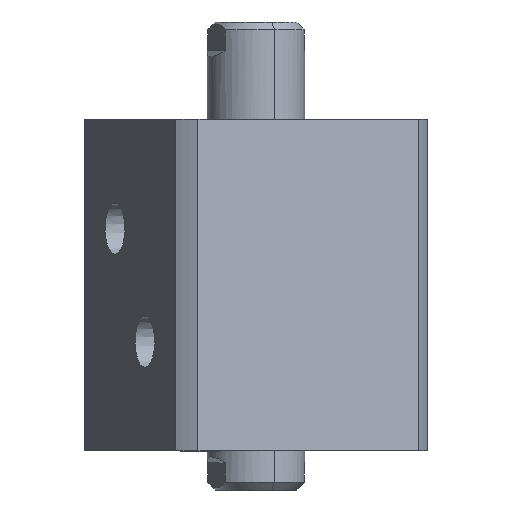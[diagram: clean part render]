
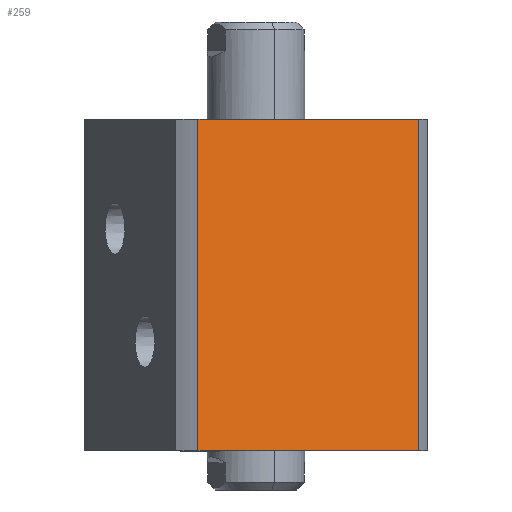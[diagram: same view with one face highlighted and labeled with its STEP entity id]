
A CAD part, left-side view. The second image highlights one B-rep face of the part: STEP entity #259.
In plain terms, the highlighted planar face has unit normal (-0.924, -0.383, 0) as drawn and (1, 0, 0) by its records, which use the part's own axes.
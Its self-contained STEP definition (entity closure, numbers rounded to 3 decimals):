
#68 = DIRECTION ( 'NONE',  ( -1., 0., 0. ) ) ;
#259 = ADVANCED_FACE ( 'NONE', ( #4958 ), #8074, .F. ) ;
#308 = DIRECTION ( 'NONE',  ( 0., 0., 1. ) ) ;
#1100 = CARTESIAN_POINT ( 'NONE',  ( 35., 30.615, -215. ) ) ;
#1133 = DIRECTION ( 'NONE',  ( 0., 1., 0. ) ) ;
#1313 = VERTEX_POINT ( 'NONE', #4240 ) ;
#1362 = CARTESIAN_POINT ( 'NONE',  ( 35., 30.615, 0. ) ) ;
#1437 = EDGE_CURVE ( 'NONE', #2381, #1313, #9605, .T. ) ;
#1914 = DIRECTION ( 'NONE',  ( 0., 0., -1. ) ) ;
#2027 = ORIENTED_EDGE ( 'NONE', *, *, #9344, .F. ) ;
#2057 = DIRECTION ( 'NONE',  ( 0., 1., 0. ) ) ;
#2381 = VERTEX_POINT ( 'NONE', #6006 ) ;
#2487 = ORIENTED_EDGE ( 'NONE', *, *, #9551, .T. ) ;
#3184 = ORIENTED_EDGE ( 'NONE', *, *, #8744, .F. ) ;
#3627 = VECTOR ( 'NONE', #308, 1000. ) ;
#4240 = CARTESIAN_POINT ( 'NONE',  ( 35., 30.615, 85. ) ) ;
#4912 = AXIS2_PLACEMENT_3D ( 'NONE', #9871, #68, #8171 ) ;
#4958 = FACE_OUTER_BOUND ( 'NONE', #8352, .T. ) ;
#5125 = CARTESIAN_POINT ( 'NONE',  ( 35., -30.615, -215. ) ) ;
#5255 = CARTESIAN_POINT ( 'NONE',  ( 35., 35., 0. ) ) ;
#5324 = VECTOR ( 'NONE', #1133, 1000. ) ;
#5452 = VERTEX_POINT ( 'NONE', #1362 ) ;
#5789 = ORIENTED_EDGE ( 'NONE', *, *, #1437, .F. ) ;
#5918 = CARTESIAN_POINT ( 'NONE',  ( 35., 35., 85. ) ) ;
#6006 = CARTESIAN_POINT ( 'NONE',  ( 35., -30.615, 85. ) ) ;
#7348 = VERTEX_POINT ( 'NONE', #8627 ) ;
#7884 = LINE ( 'NONE', #5125, #3627 ) ;
#8074 = PLANE ( 'NONE',  #4912 ) ;
#8171 = DIRECTION ( 'NONE',  ( 0., -1., 0. ) ) ;
#8352 = EDGE_LOOP ( 'NONE', ( #3184, #2487, #2027, #5789 ) ) ;
#8627 = CARTESIAN_POINT ( 'NONE',  ( 35., -30.615, 0. ) ) ;
#8744 = EDGE_CURVE ( 'NONE', #7348, #2381, #7884, .T. ) ;
#9136 = VECTOR ( 'NONE', #2057, 1000. ) ;
#9344 = EDGE_CURVE ( 'NONE', #1313, #5452, #9897, .T. ) ;
#9380 = LINE ( 'NONE', #5255, #9136 ) ;
#9551 = EDGE_CURVE ( 'NONE', #7348, #5452, #9380, .T. ) ;
#9605 = LINE ( 'NONE', #5918, #5324 ) ;
#9642 = VECTOR ( 'NONE', #1914, 1000. ) ;
#9871 = CARTESIAN_POINT ( 'NONE',  ( 35., 35., 85. ) ) ;
#9897 = LINE ( 'NONE', #1100, #9642 ) ;
